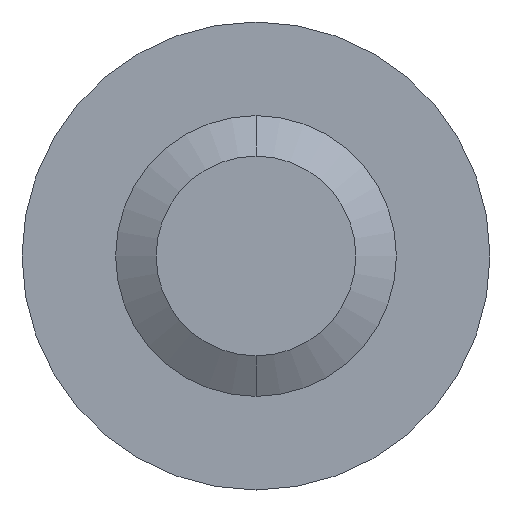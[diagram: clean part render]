
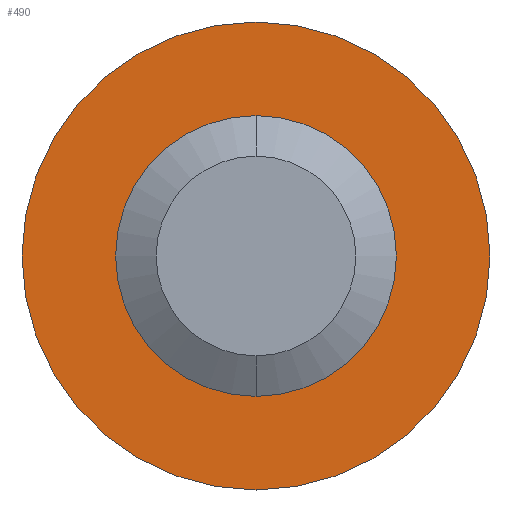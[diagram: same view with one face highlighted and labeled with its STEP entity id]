
A CAD part, front view. The second image highlights one B-rep face of the part: STEP entity #490.
In plain terms, the highlighted planar face has unit normal (0, -1, 0).
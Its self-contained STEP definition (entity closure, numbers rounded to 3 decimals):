
#24 = DIRECTION ( 'NONE',  ( 0., 1., 0. ) ) ;
#45 = CARTESIAN_POINT ( 'NONE',  ( 0., 12., 0. ) ) ;
#67 = VERTEX_POINT ( 'NONE', #1572 ) ;
#70 = VERTEX_POINT ( 'NONE', #536 ) ;
#94 = CARTESIAN_POINT ( 'NONE',  ( 0., 12., 0. ) ) ;
#123 = EDGE_LOOP ( 'NONE', ( #541, #1486 ) ) ;
#169 = EDGE_CURVE ( 'NONE', #67, #1979, #677, .T. ) ;
#211 = CIRCLE ( 'NONE', #470, 3. ) ;
#354 = DIRECTION ( 'NONE',  ( 0., 0., 1. ) ) ;
#470 = AXIS2_PLACEMENT_3D ( 'NONE', #983, #1573, #354 ) ;
#490 = ADVANCED_FACE ( 'NONE', ( #1861, #1096 ), #1281, .F. ) ;
#536 = CARTESIAN_POINT ( 'NONE',  ( 0., 12., -3. ) ) ;
#541 = ORIENTED_EDGE ( 'NONE', *, *, #799, .F. ) ;
#604 = VERTEX_POINT ( 'NONE', #1179 ) ;
#618 = DIRECTION ( 'NONE',  ( 0., 1., 0. ) ) ;
#677 = CIRCLE ( 'NONE', #1253, 5. ) ;
#753 = CARTESIAN_POINT ( 'NONE',  ( 0., 12., 0. ) ) ;
#799 = EDGE_CURVE ( 'NONE', #1979, #67, #1784, .T. ) ;
#821 = CARTESIAN_POINT ( 'NONE',  ( 0., 12., -5. ) ) ;
#827 = ORIENTED_EDGE ( 'NONE', *, *, #1717, .T. ) ;
#848 = AXIS2_PLACEMENT_3D ( 'NONE', #1704, #24, #1231 ) ;
#983 = CARTESIAN_POINT ( 'NONE',  ( 0., 12., 0. ) ) ;
#1020 = DIRECTION ( 'NONE',  ( 0., 1., 0. ) ) ;
#1037 = AXIS2_PLACEMENT_3D ( 'NONE', #45, #618, #1118 ) ;
#1096 = FACE_BOUND ( 'NONE', #1576, .T. ) ;
#1118 = DIRECTION ( 'NONE',  ( 0., 0., 1. ) ) ;
#1179 = CARTESIAN_POINT ( 'NONE',  ( 0., 12., 3. ) ) ;
#1183 = DIRECTION ( 'NONE',  ( 0., 0., 1. ) ) ;
#1231 = DIRECTION ( 'NONE',  ( 0., 0., 1. ) ) ;
#1253 = AXIS2_PLACEMENT_3D ( 'NONE', #94, #1020, #1183 ) ;
#1281 = PLANE ( 'NONE',  #1037 ) ;
#1303 = AXIS2_PLACEMENT_3D ( 'NONE', #753, #1378, #1485 ) ;
#1378 = DIRECTION ( 'NONE',  ( 0., 1., 0. ) ) ;
#1485 = DIRECTION ( 'NONE',  ( 0., 0., 1. ) ) ;
#1486 = ORIENTED_EDGE ( 'NONE', *, *, #169, .F. ) ;
#1572 = CARTESIAN_POINT ( 'NONE',  ( 0., 12., 5. ) ) ;
#1573 = DIRECTION ( 'NONE',  ( 0., 1., 0. ) ) ;
#1576 = EDGE_LOOP ( 'NONE', ( #1662, #827 ) ) ;
#1662 = ORIENTED_EDGE ( 'NONE', *, *, #1926, .T. ) ;
#1704 = CARTESIAN_POINT ( 'NONE',  ( 0., 12., 0. ) ) ;
#1717 = EDGE_CURVE ( 'NONE', #604, #70, #1909, .T. ) ;
#1784 = CIRCLE ( 'NONE', #1303, 5. ) ;
#1861 = FACE_OUTER_BOUND ( 'NONE', #123, .T. ) ;
#1909 = CIRCLE ( 'NONE', #848, 3. ) ;
#1926 = EDGE_CURVE ( 'NONE', #70, #604, #211, .T. ) ;
#1979 = VERTEX_POINT ( 'NONE', #821 ) ;
